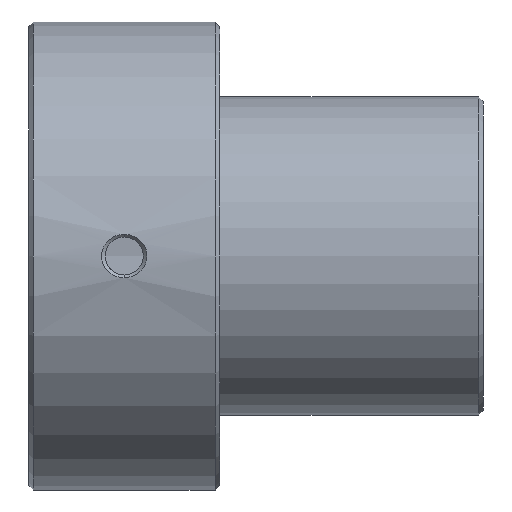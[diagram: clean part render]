
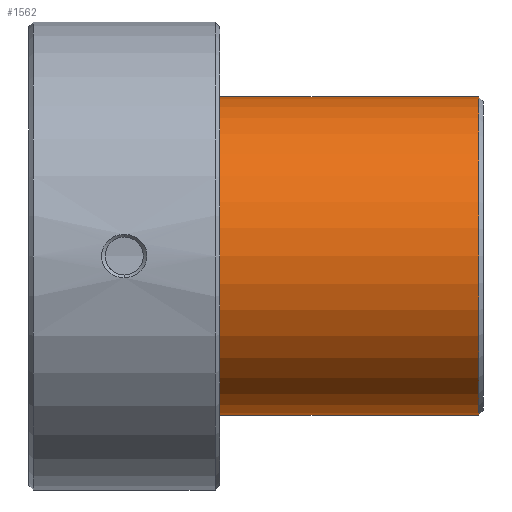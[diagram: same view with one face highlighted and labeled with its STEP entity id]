
A CAD part, front view. The second image highlights one B-rep face of the part: STEP entity #1562.
In plain terms, the highlighted cylindrical face has radius 35 mm (diameter 70 mm), a partial arc.
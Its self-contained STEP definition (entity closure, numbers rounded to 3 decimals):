
#868=CARTESIAN_POINT('Vertex',(42.,0.,-35.)) ;
#873=CARTESIAN_POINT('Axis2P3D Location',(42.,0.,0.)) ;
#877=CARTESIAN_POINT('Vertex',(42.,-35.,0.)) ;
#880=CARTESIAN_POINT('Axis2P3D Location',(42.,0.,0.)) ;
#884=CARTESIAN_POINT('Vertex',(42.,0.,35.)) ;
#1502=CARTESIAN_POINT('Line Origine',(100.,0.,35.)) ;
#1506=CARTESIAN_POINT('Vertex',(99.,0.,35.)) ;
#1520=CARTESIAN_POINT('Vertex',(99.,0.,-35.)) ;
#1523=CARTESIAN_POINT('Line Origine',(100.,0.,-35.)) ;
#1537=CARTESIAN_POINT('Axis2P3D Location',(100.,0.,0.)) ;
#1542=CARTESIAN_POINT('Axis2P3D Location',(99.,0.,0.)) ;
#1546=CARTESIAN_POINT('Vertex',(99.,-35.,0.)) ;
#1549=CARTESIAN_POINT('Axis2P3D Location',(99.,0.,0.)) ;
#874=DIRECTION('Axis2P3D Direction',(1.,0.,-0.)) ;
#881=DIRECTION('Axis2P3D Direction',(1.,0.,-0.)) ;
#1503=DIRECTION('Vector Direction',(-1.,0.,0.)) ;
#1524=DIRECTION('Vector Direction',(-1.,0.,0.)) ;
#1538=DIRECTION('Axis2P3D Direction',(-1.,-0.,-0.)) ;
#1539=DIRECTION('Axis2P3D XDirection',(0.,0.,-1.)) ;
#1543=DIRECTION('Axis2P3D Direction',(-1.,-0.,-0.)) ;
#1550=DIRECTION('Axis2P3D Direction',(-1.,-0.,-0.)) ;
#875=AXIS2_PLACEMENT_3D('Circle Axis2P3D',#873,#874,$) ;
#882=AXIS2_PLACEMENT_3D('Circle Axis2P3D',#880,#881,$) ;
#1540=AXIS2_PLACEMENT_3D('Cylinder Axis2P3D',#1537,#1538,#1539) ;
#1544=AXIS2_PLACEMENT_3D('Circle Axis2P3D',#1542,#1543,$) ;
#1551=AXIS2_PLACEMENT_3D('Circle Axis2P3D',#1549,#1550,$) ;
#1555=ORIENTED_EDGE('',*,*,#1527,.T.) ;
#1556=ORIENTED_EDGE('',*,*,#1548,.F.) ;
#1557=ORIENTED_EDGE('',*,*,#1553,.F.) ;
#1558=ORIENTED_EDGE('',*,*,#1508,.T.) ;
#1559=ORIENTED_EDGE('',*,*,#886,.T.) ;
#1560=ORIENTED_EDGE('',*,*,#879,.T.) ;
#1504=VECTOR('Line Direction',#1503,1.) ;
#1525=VECTOR('Line Direction',#1524,1.) ;
#1562=ADVANCED_FACE('346-51',(#1561),#1541,.T.) ;
#876=CIRCLE('generated circle',#875,35.) ;
#883=CIRCLE('generated circle',#882,35.) ;
#1545=CIRCLE('generated circle',#1544,35.) ;
#1552=CIRCLE('generated circle',#1551,35.) ;
#1541=CYLINDRICAL_SURFACE('generated cylinder',#1540,35.) ;
#879=EDGE_CURVE('',#878,#869,#876,.T.) ;
#886=EDGE_CURVE('',#885,#878,#883,.T.) ;
#1508=EDGE_CURVE('',#1507,#885,#1505,.T.) ;
#1527=EDGE_CURVE('',#869,#1521,#1526,.F.) ;
#1548=EDGE_CURVE('',#1547,#1521,#1545,.F.) ;
#1553=EDGE_CURVE('',#1507,#1547,#1552,.F.) ;
#1554=EDGE_LOOP('',(#1555,#1556,#1557,#1558,#1559,#1560)) ;
#1561=FACE_OUTER_BOUND('',#1554,.T.) ;
#1505=LINE('Line',#1502,#1504) ;
#1526=LINE('Line',#1523,#1525) ;
#869=VERTEX_POINT('',#868) ;
#878=VERTEX_POINT('',#877) ;
#885=VERTEX_POINT('',#884) ;
#1507=VERTEX_POINT('',#1506) ;
#1521=VERTEX_POINT('',#1520) ;
#1547=VERTEX_POINT('',#1546) ;
